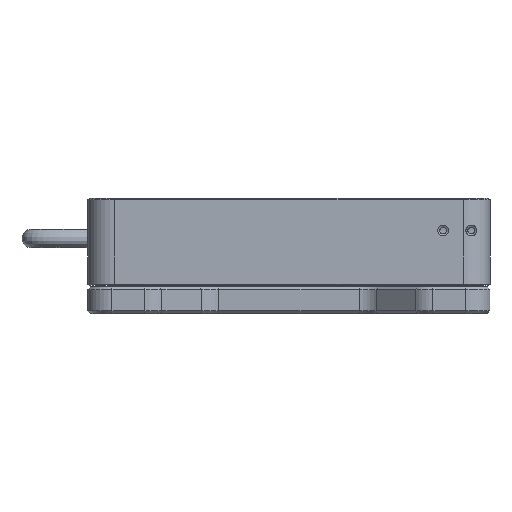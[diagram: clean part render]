
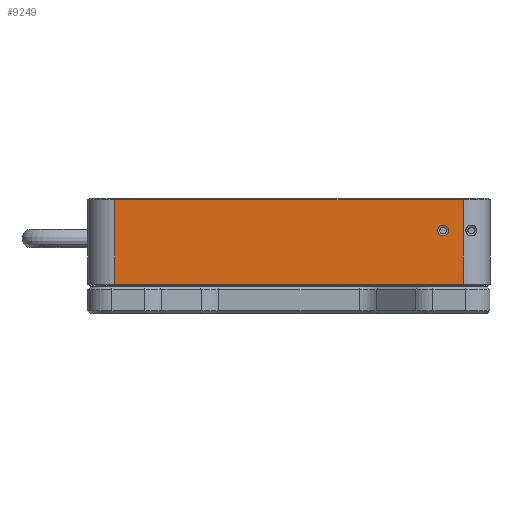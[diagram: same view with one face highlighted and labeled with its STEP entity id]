
A CAD part, front view. The second image highlights one B-rep face of the part: STEP entity #9249.
In plain terms, the highlighted planar face has unit normal (0, -1, 0).
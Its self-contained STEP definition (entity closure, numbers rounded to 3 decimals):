
#165=FACE_BOUND('',#1933,.T.);
#514=CIRCLE('',#9658,2.);
#515=CIRCLE('',#9659,2.);
#1352=FACE_OUTER_BOUND('',#1932,.T.);
#1932=EDGE_LOOP('',(#7592,#7593,#7594,#7595));
#1933=EDGE_LOOP('',(#7596,#7597));
#2712=LINE('',#15468,#3465);
#2725=LINE('',#15511,#3478);
#2726=LINE('',#15515,#3479);
#2727=LINE('',#15516,#3480);
#3465=VECTOR('',#12280,10.);
#3478=VECTOR('',#12329,10.);
#3479=VECTOR('',#12334,10.);
#3480=VECTOR('',#12335,10.);
#3870=VERTEX_POINT('',#13906);
#3871=VERTEX_POINT('',#13907);
#4332=VERTEX_POINT('',#15461);
#4335=VERTEX_POINT('',#15466);
#4347=VERTEX_POINT('',#15510);
#4348=VERTEX_POINT('',#15514);
#4871=EDGE_CURVE('',#3870,#3871,#514,.T.);
#4872=EDGE_CURVE('',#3871,#3870,#515,.T.);
#5509=EDGE_CURVE('',#4335,#4332,#2712,.T.);
#5531=EDGE_CURVE('',#4332,#4347,#2725,.T.);
#5533=EDGE_CURVE('',#4348,#4335,#2726,.T.);
#5534=EDGE_CURVE('',#4347,#4348,#2727,.T.);
#7592=ORIENTED_EDGE('',*,*,#5509,.F.);
#7593=ORIENTED_EDGE('',*,*,#5533,.F.);
#7594=ORIENTED_EDGE('',*,*,#5534,.F.);
#7595=ORIENTED_EDGE('',*,*,#5531,.F.);
#7596=ORIENTED_EDGE('',*,*,#4871,.T.);
#7597=ORIENTED_EDGE('',*,*,#4872,.T.);
#8857=PLANE('',#10144);
#9249=ADVANCED_FACE('',(#1352,#165),#8857,.T.);
#9658=AXIS2_PLACEMENT_3D('',#13908,#11003,#11004);
#9659=AXIS2_PLACEMENT_3D('',#13909,#11005,#11006);
#10144=AXIS2_PLACEMENT_3D('',#15513,#12332,#12333);
#11003=DIRECTION('center_axis',(0.,1.,0.));
#11004=DIRECTION('ref_axis',(1.,0.,0.));
#11005=DIRECTION('center_axis',(0.,1.,0.));
#11006=DIRECTION('ref_axis',(1.,0.,0.));
#12280=DIRECTION('',(-1.,0.,0.));
#12329=DIRECTION('',(0.,0.,1.));
#12332=DIRECTION('center_axis',(0.,-1.,0.));
#12333=DIRECTION('ref_axis',(0.,0.,
-1.));
#12334=DIRECTION('',(0.,0.,-1.));
#12335=DIRECTION('',(1.,0.,0.));
#13906=CARTESIAN_POINT('',(59.5,-47.5,31.));
#13907=CARTESIAN_POINT('',(55.5,-47.5,31.));
#13908=CARTESIAN_POINT('Origin',(57.5,-47.5,31.));
#13909=CARTESIAN_POINT('Origin',(57.5,-47.5,31.));
#15461=CARTESIAN_POINT('',(-65.,-47.5,11.));
#15466=CARTESIAN_POINT('',(65.,-47.5,11.));
#15468=CARTESIAN_POINT('',(0.,-47.5,11.));
#15510=CARTESIAN_POINT('',(-65.,-47.5,42.5));
#15511=CARTESIAN_POINT('',(-65.,-47.5,10.));
#15513=CARTESIAN_POINT('Origin',(0.,-47.5,10.));
#15514=CARTESIAN_POINT('',(65.,-47.5,42.5));
#15515=CARTESIAN_POINT('',(65.,-47.5,13.));
#15516=CARTESIAN_POINT('',(0.,-47.5,42.5));
